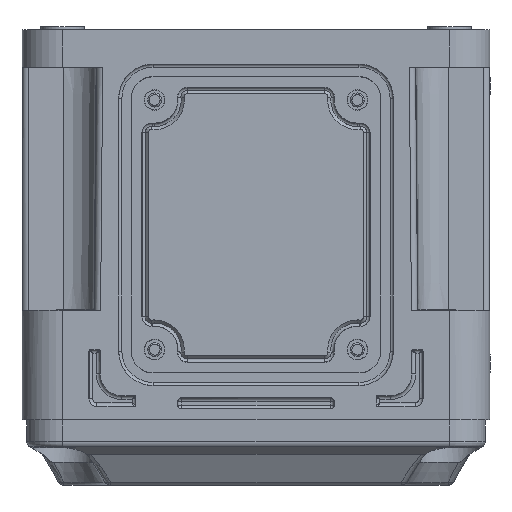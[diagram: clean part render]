
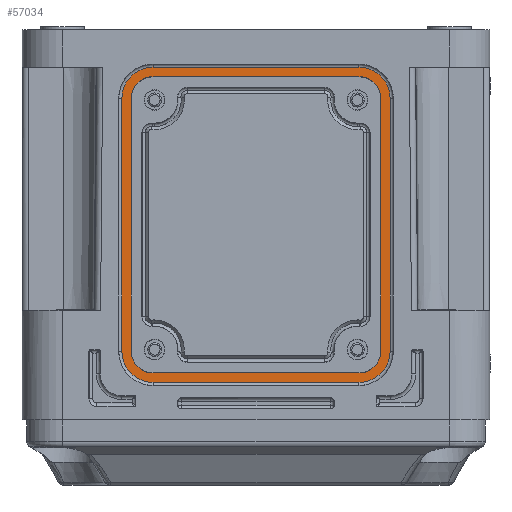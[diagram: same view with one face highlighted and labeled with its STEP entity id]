
A CAD part, left-side view. The second image highlights one B-rep face of the part: STEP entity #57034.
In plain terms, the highlighted planar face has unit normal (-1, 0, 0).
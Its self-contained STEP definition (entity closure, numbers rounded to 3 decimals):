
#1286 = DIRECTION ( 'NONE',  ( 0., 0., -1. ) ) ;
#1766 = ORIENTED_EDGE ( 'NONE', *, *, #67008, .T. ) ;
#2202 = AXIS2_PLACEMENT_3D ( 'NONE', #82968, #7468, #21045 ) ;
#2873 = DIRECTION ( 'NONE',  ( 0., 0., -1. ) ) ;
#3489 = ORIENTED_EDGE ( 'NONE', *, *, #12726, .T. ) ;
#3690 = ORIENTED_EDGE ( 'NONE', *, *, #66938, .T. ) ;
#3834 = CARTESIAN_POINT ( 'NONE',  ( -146.3, 43.009, 22. ) ) ;
#4422 = CARTESIAN_POINT ( 'NONE',  ( -146.3, 33., 103. ) ) ;
#4569 = CARTESIAN_POINT ( 'NONE',  ( -146.3, -33., 113.009 ) ) ;
#4664 = VECTOR ( 'NONE', #59538, 1000. ) ;
#5044 = EDGE_LOOP ( 'NONE', ( #77161, #29917, #74125, #1766, #29281, #3690, #45021, #62849 ) ) ;
#6452 = CIRCLE ( 'NONE', #58401, 7. ) ;
#6456 = AXIS2_PLACEMENT_3D ( 'NONE', #86522, #51726, #58068 ) ;
#6662 = ORIENTED_EDGE ( 'NONE', *, *, #50411, .T. ) ;
#7468 = DIRECTION ( 'NONE',  ( -1., 0., 0. ) ) ;
#9574 = DIRECTION ( 'NONE',  ( 0., 0., 1. ) ) ;
#9864 = EDGE_CURVE ( 'NONE', #85279, #21460, #24920, .T. ) ;
#10483 = DIRECTION ( 'NONE',  ( 0., 1., 0. ) ) ;
#10902 = DIRECTION ( 'NONE',  ( 0., 1., 0. ) ) ;
#11303 = DIRECTION ( 'NONE',  ( 0., -1., 0. ) ) ;
#11907 = CARTESIAN_POINT ( 'NONE',  ( -146.3, 33., 110. ) ) ;
#11996 = VERTEX_POINT ( 'NONE', #22992 ) ;
#12097 = DIRECTION ( 'NONE',  ( -1., 0., 0. ) ) ;
#12416 = DIRECTION ( 'NONE',  ( 1., 0., 0. ) ) ;
#12726 = EDGE_CURVE ( 'NONE', #15623, #15467, #77365, .T. ) ;
#13658 = ORIENTED_EDGE ( 'NONE', *, *, #19297, .T. ) ;
#15159 = PLANE ( 'NONE',  #2202 ) ;
#15467 = VERTEX_POINT ( 'NONE', #78248 ) ;
#15623 = VERTEX_POINT ( 'NONE', #17005 ) ;
#16373 = EDGE_LOOP ( 'NONE', ( #86020, #78245, #41633, #61128, #78475, #3489, #13658, #6662 ) ) ;
#16374 = CARTESIAN_POINT ( 'NONE',  ( -146.3, -33., 22. ) ) ;
#16472 = CARTESIAN_POINT ( 'NONE',  ( -146.3, -40., 103. ) ) ;
#17005 = CARTESIAN_POINT ( 'NONE',  ( -146.3, 33., 11.991 ) ) ;
#18585 = DIRECTION ( 'NONE',  ( 0., 1., 0. ) ) ;
#18862 = DIRECTION ( 'NONE',  ( 0., 0., 1. ) ) ;
#18890 = EDGE_CURVE ( 'NONE', #55431, #11996, #60538, .T. ) ;
#19297 = EDGE_CURVE ( 'NONE', #15467, #54625, #73482, .T. ) ;
#20541 = VERTEX_POINT ( 'NONE', #85151 ) ;
#20613 = EDGE_CURVE ( 'NONE', #54915, #78288, #84714, .T. ) ;
#21045 = DIRECTION ( 'NONE',  ( 0., 0., 1. ) ) ;
#21460 = VERTEX_POINT ( 'NONE', #75835 ) ;
#21471 = FACE_OUTER_BOUND ( 'NONE', #16373, .T. ) ;
#22992 = CARTESIAN_POINT ( 'NONE',  ( -146.3, -33., 110. ) ) ;
#23036 = CARTESIAN_POINT ( 'NONE',  ( -146.3, 43.009, 103. ) ) ;
#23850 = DIRECTION ( 'NONE',  ( -1., 0., 0. ) ) ;
#23956 = CARTESIAN_POINT ( 'NONE',  ( -146.3, 33., 113.009 ) ) ;
#24920 = LINE ( 'NONE', #45720, #60910 ) ;
#26129 = CARTESIAN_POINT ( 'NONE',  ( -146.3, -43.009, 103. ) ) ;
#27272 = VECTOR ( 'NONE', #11303, 1000. ) ;
#27965 = DIRECTION ( 'NONE',  ( 0., 0., -1. ) ) ;
#28118 = CARTESIAN_POINT ( 'NONE',  ( -146.3, 40., 103. ) ) ;
#28859 = CARTESIAN_POINT ( 'NONE',  ( -146.3, -43.009, 22. ) ) ;
#29018 = VECTOR ( 'NONE', #64512, 1000. ) ;
#29281 = ORIENTED_EDGE ( 'NONE', *, *, #18890, .T. ) ;
#29917 = ORIENTED_EDGE ( 'NONE', *, *, #72125, .T. ) ;
#29918 = DIRECTION ( 'NONE',  ( -1., 0., 0. ) ) ;
#30427 = VERTEX_POINT ( 'NONE', #3834 ) ;
#31999 = DIRECTION ( 'NONE',  ( 0., 0., 1. ) ) ;
#35225 = AXIS2_PLACEMENT_3D ( 'NONE', #4422, #12097, #31999 ) ;
#36212 = VERTEX_POINT ( 'NONE', #26129 ) ;
#36868 = LINE ( 'NONE', #37387, #4664 ) ;
#36959 = CARTESIAN_POINT ( 'NONE',  ( -146.3, -43.009, 103. ) ) ;
#37300 = DIRECTION ( 'NONE',  ( 0., 0., -1. ) ) ;
#37387 = CARTESIAN_POINT ( 'NONE',  ( -146.3, 40., 103. ) ) ;
#41328 = CARTESIAN_POINT ( 'NONE',  ( -146.3, 33., 103. ) ) ;
#41633 = ORIENTED_EDGE ( 'NONE', *, *, #67727, .T. ) ;
#43333 = VECTOR ( 'NONE', #70543, 1000. ) ;
#43742 = LINE ( 'NONE', #36959, #29018 ) ;
#45021 = ORIENTED_EDGE ( 'NONE', *, *, #20613, .T. ) ;
#45263 = LINE ( 'NONE', #4569, #46879 ) ;
#45720 = CARTESIAN_POINT ( 'NONE',  ( -146.3, -33., 15. ) ) ;
#46221 = LINE ( 'NONE', #69520, #78507 ) ;
#46424 = AXIS2_PLACEMENT_3D ( 'NONE', #87559, #23850, #18862 ) ;
#46564 = CARTESIAN_POINT ( 'NONE',  ( -146.3, -33., 110. ) ) ;
#46759 = CIRCLE ( 'NONE', #58283, 7. ) ;
#46879 = VECTOR ( 'NONE', #10902, 1000. ) ;
#47228 = DIRECTION ( 'NONE',  ( 0., 0., -1. ) ) ;
#48454 = CARTESIAN_POINT ( 'NONE',  ( -146.3, 40., 22. ) ) ;
#49675 = EDGE_CURVE ( 'NONE', #58587, #70170, #36868, .T. ) ;
#49988 = DIRECTION ( 'NONE',  ( 1., 0., 0. ) ) ;
#50411 = EDGE_CURVE ( 'NONE', #54625, #36212, #43742, .T. ) ;
#50585 = EDGE_CURVE ( 'NONE', #30427, #15623, #71075, .T. ) ;
#51623 = DIRECTION ( 'NONE',  ( 1., 0., 0. ) ) ;
#51642 = EDGE_CURVE ( 'NONE', #87790, #30427, #46221, .T. ) ;
#51726 = DIRECTION ( 'NONE',  ( -1., 0., 0. ) ) ;
#54625 = VERTEX_POINT ( 'NONE', #28859 ) ;
#54915 = VERTEX_POINT ( 'NONE', #74596 ) ;
#55431 = VERTEX_POINT ( 'NONE', #11907 ) ;
#56848 = CIRCLE ( 'NONE', #35225, 10.009 ) ;
#57034 = ADVANCED_FACE ( 'NONE', ( #76174, #21471 ), #15159, .T. ) ;
#58068 = DIRECTION ( 'NONE',  ( 0., 0., 1. ) ) ;
#58283 = AXIS2_PLACEMENT_3D ( 'NONE', #41328, #12416, #47228 ) ;
#58401 = AXIS2_PLACEMENT_3D ( 'NONE', #63230, #84027, #1286 ) ;
#58587 = VERTEX_POINT ( 'NONE', #48454 ) ;
#59538 = DIRECTION ( 'NONE',  ( 0., 0., 1. ) ) ;
#60538 = LINE ( 'NONE', #46564, #27272 ) ;
#60910 = VECTOR ( 'NONE', #18585, 1000. ) ;
#61128 = ORIENTED_EDGE ( 'NONE', *, *, #51642, .T. ) ;
#62588 = EDGE_CURVE ( 'NONE', #78288, #85279, #70820, .T. ) ;
#62849 = ORIENTED_EDGE ( 'NONE', *, *, #62588, .T. ) ;
#63230 = CARTESIAN_POINT ( 'NONE',  ( -146.3, 33., 22. ) ) ;
#64512 = DIRECTION ( 'NONE',  ( 0., 0., 1. ) ) ;
#66938 = EDGE_CURVE ( 'NONE', #11996, #54915, #75570, .T. ) ;
#67008 = EDGE_CURVE ( 'NONE', #70170, #55431, #46759, .T. ) ;
#67663 = VECTOR ( 'NONE', #2873, 1000. ) ;
#67727 = EDGE_CURVE ( 'NONE', #80308, #87790, #56848, .T. ) ;
#67810 = EDGE_CURVE ( 'NONE', #36212, #20541, #85824, .T. ) ;
#69427 = AXIS2_PLACEMENT_3D ( 'NONE', #73299, #51623, #10483 ) ;
#69520 = CARTESIAN_POINT ( 'NONE',  ( -146.3, 43.009, 103. ) ) ;
#70170 = VERTEX_POINT ( 'NONE', #28118 ) ;
#70543 = DIRECTION ( 'NONE',  ( 0., -1., 0. ) ) ;
#70820 = CIRCLE ( 'NONE', #69427, 7. ) ;
#71075 = CIRCLE ( 'NONE', #46424, 10.009 ) ;
#71182 = CARTESIAN_POINT ( 'NONE',  ( -146.3, -33., 103. ) ) ;
#71806 = EDGE_CURVE ( 'NONE', #20541, #80308, #45263, .T. ) ;
#72125 = EDGE_CURVE ( 'NONE', #21460, #58587, #6452, .T. ) ;
#72365 = CARTESIAN_POINT ( 'NONE',  ( -146.3, -33., 15. ) ) ;
#73299 = CARTESIAN_POINT ( 'NONE',  ( -146.3, -33., 22. ) ) ;
#73482 = CIRCLE ( 'NONE', #80540, 10.009 ) ;
#74125 = ORIENTED_EDGE ( 'NONE', *, *, #49675, .T. ) ;
#74596 = CARTESIAN_POINT ( 'NONE',  ( -146.3, -40., 103. ) ) ;
#75570 = CIRCLE ( 'NONE', #87130, 7. ) ;
#75835 = CARTESIAN_POINT ( 'NONE',  ( -146.3, 33., 15. ) ) ;
#76174 = FACE_BOUND ( 'NONE', #5044, .T. ) ;
#76922 = CARTESIAN_POINT ( 'NONE',  ( -146.3, -33., 11.991 ) ) ;
#77161 = ORIENTED_EDGE ( 'NONE', *, *, #9864, .T. ) ;
#77365 = LINE ( 'NONE', #76922, #43333 ) ;
#78245 = ORIENTED_EDGE ( 'NONE', *, *, #71806, .T. ) ;
#78248 = CARTESIAN_POINT ( 'NONE',  ( -146.3, -33., 11.991 ) ) ;
#78288 = VERTEX_POINT ( 'NONE', #89471 ) ;
#78475 = ORIENTED_EDGE ( 'NONE', *, *, #50585, .T. ) ;
#78507 = VECTOR ( 'NONE', #27965, 1000. ) ;
#80308 = VERTEX_POINT ( 'NONE', #23956 ) ;
#80540 = AXIS2_PLACEMENT_3D ( 'NONE', #16374, #29918, #9574 ) ;
#82968 = CARTESIAN_POINT ( 'NONE',  ( -146.3, -33., 103. ) ) ;
#84027 = DIRECTION ( 'NONE',  ( 1., 0., 0. ) ) ;
#84714 = LINE ( 'NONE', #16472, #67663 ) ;
#85151 = CARTESIAN_POINT ( 'NONE',  ( -146.3, -33., 113.009 ) ) ;
#85279 = VERTEX_POINT ( 'NONE', #72365 ) ;
#85824 = CIRCLE ( 'NONE', #6456, 10.009 ) ;
#86020 = ORIENTED_EDGE ( 'NONE', *, *, #67810, .T. ) ;
#86522 = CARTESIAN_POINT ( 'NONE',  ( -146.3, -33., 103. ) ) ;
#87130 = AXIS2_PLACEMENT_3D ( 'NONE', #71182, #49988, #37300 ) ;
#87559 = CARTESIAN_POINT ( 'NONE',  ( -146.3, 33., 22. ) ) ;
#87790 = VERTEX_POINT ( 'NONE', #23036 ) ;
#89471 = CARTESIAN_POINT ( 'NONE',  ( -146.3, -40., 22. ) ) ;
